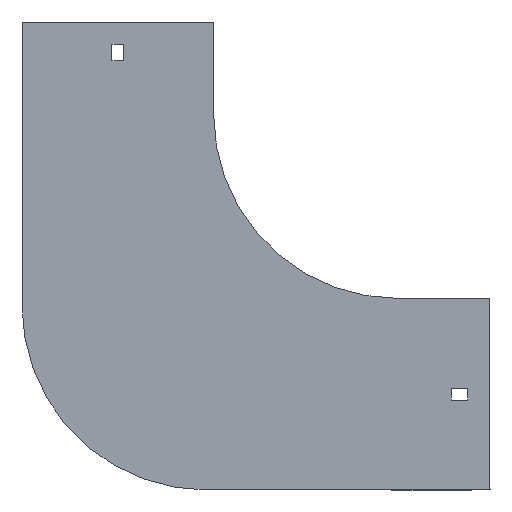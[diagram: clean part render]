
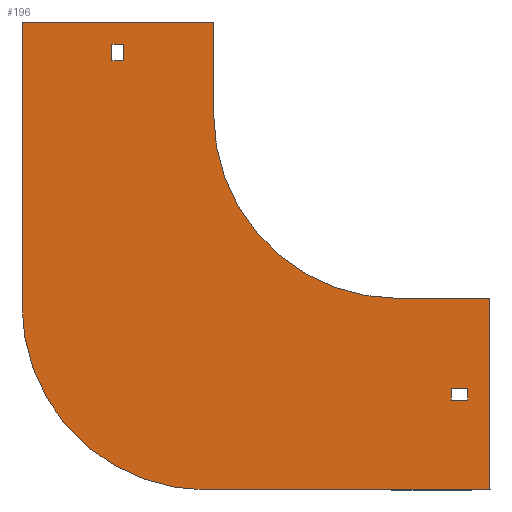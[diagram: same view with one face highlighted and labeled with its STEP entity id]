
A CAD part, front view. The second image highlights one B-rep face of the part: STEP entity #196.
In plain terms, the highlighted planar face has unit normal (0, -1, 0).
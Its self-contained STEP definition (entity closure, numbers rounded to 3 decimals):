
#17 = DIRECTION ( 'NONE',  ( -1., 0., 0. ) ) ;
#27 = CARTESIAN_POINT ( 'NONE',  ( -204., 0., 50. ) ) ;
#28 = VECTOR ( 'NONE', #128, 1000. ) ;
#38 = EDGE_CURVE ( 'NONE', #80, #260, #315, .T. ) ;
#49 = LINE ( 'NONE', #1218, #28 ) ;
#60 = VERTEX_POINT ( 'NONE', #751 ) ;
#68 = LINE ( 'NONE', #1111, #226 ) ;
#76 = DIRECTION ( 'NONE',  ( 0., 1., 0. ) ) ;
#80 = VERTEX_POINT ( 'NONE', #1188 ) ;
#84 = ORIENTED_EDGE ( 'NONE', *, *, #655, .F. ) ;
#90 = ORIENTED_EDGE ( 'NONE', *, *, #920, .F. ) ;
#107 = ORIENTED_EDGE ( 'NONE', *, *, #777, .F. ) ;
#111 = DIRECTION ( 'NONE',  ( 0., -1., 0. ) ) ;
#125 = CARTESIAN_POINT ( 'NONE',  ( 0., 0., 0. ) ) ;
#128 = DIRECTION ( 'NONE',  ( 1., 0., 0. ) ) ;
#130 = ORIENTED_EDGE ( 'NONE', *, *, #394, .F. ) ;
#135 = ORIENTED_EDGE ( 'NONE', *, *, #857, .F. ) ;
#138 = DIRECTION ( 'NONE',  ( 0., 0., -1. ) ) ;
#149 = VERTEX_POINT ( 'NONE', #27 ) ;
#161 = CARTESIAN_POINT ( 'NONE',  ( 29., 0., -148.75 ) ) ;
#182 = CARTESIAN_POINT ( 'NONE',  ( 29., 0., -155.25 ) ) ;
#196 = ADVANCED_FACE ( 'NONE', ( #983, #1081, #747 ), #1095, .T. ) ;
#202 = EDGE_CURVE ( 'NONE', #1025, #340, #455, .T. ) ;
#209 = DIRECTION ( 'NONE',  ( 0., 0., -1. ) ) ;
#210 = EDGE_LOOP ( 'NONE', ( #135, #84, #90, #1149, #1108, #361, #107, #339 ) ) ;
#217 = LINE ( 'NONE', #327, #1350 ) ;
#224 = DIRECTION ( 'NONE',  ( 0., 0., 1. ) ) ;
#225 = VECTOR ( 'NONE', #17, 1000. ) ;
#226 = VECTOR ( 'NONE', #934, 1000. ) ;
#235 = LINE ( 'NONE', #852, #225 ) ;
#237 = ORIENTED_EDGE ( 'NONE', *, *, #38, .T. ) ;
#246 = CARTESIAN_POINT ( 'NONE',  ( -155.25, 0., 29. ) ) ;
#260 = VERTEX_POINT ( 'NONE', #676 ) ;
#282 = ORIENTED_EDGE ( 'NONE', *, *, #704, .F. ) ;
#286 = VERTEX_POINT ( 'NONE', #669 ) ;
#291 = CARTESIAN_POINT ( 'NONE',  ( -104., 0., -104. ) ) ;
#297 = ORIENTED_EDGE ( 'NONE', *, *, #758, .F. ) ;
#315 = LINE ( 'NONE', #1164, #807 ) ;
#318 = CARTESIAN_POINT ( 'NONE',  ( -100., 0., 50. ) ) ;
#327 = CARTESIAN_POINT ( 'NONE',  ( 38., 0., -155.25 ) ) ;
#339 = ORIENTED_EDGE ( 'NONE', *, *, #202, .F. ) ;
#340 = VERTEX_POINT ( 'NONE', #1162 ) ;
#342 = EDGE_CURVE ( 'NONE', #1204, #60, #401, .T. ) ;
#357 = DIRECTION ( 'NONE',  ( 0., 0., -1. ) ) ;
#361 = ORIENTED_EDGE ( 'NONE', *, *, #342, .F. ) ;
#368 = CARTESIAN_POINT ( 'NONE',  ( -204., 0., -104. ) ) ;
#374 = CARTESIAN_POINT ( 'NONE',  ( 38., 0., -148.75 ) ) ;
#381 = CARTESIAN_POINT ( 'NONE',  ( 29., 0., -155.25 ) ) ;
#383 = LINE ( 'NONE', #161, #1226 ) ;
#390 = VERTEX_POINT ( 'NONE', #1256 ) ;
#394 = EDGE_CURVE ( 'NONE', #1131, #936, #1143, .T. ) ;
#401 = LINE ( 'NONE', #1039, #1073 ) ;
#430 = CIRCLE ( 'NONE', #814, 100. ) ;
#434 = CARTESIAN_POINT ( 'NONE',  ( 38., 0., -155.25 ) ) ;
#455 = LINE ( 'NONE', #1303, #580 ) ;
#463 = CIRCLE ( 'NONE', #644, 100. ) ;
#471 = VECTOR ( 'NONE', #671, 1000. ) ;
#505 = CARTESIAN_POINT ( 'NONE',  ( -155.25, 0., 38. ) ) ;
#507 = CARTESIAN_POINT ( 'NONE',  ( -155.25, 0., 38. ) ) ;
#512 = DIRECTION ( 'NONE',  ( 1., 0., 0. ) ) ;
#554 = DIRECTION ( 'NONE',  ( 0., 0., -1. ) ) ;
#580 = VECTOR ( 'NONE', #554, 1000. ) ;
#587 = VERTEX_POINT ( 'NONE', #604 ) ;
#604 = CARTESIAN_POINT ( 'NONE',  ( -155.25, 0., 29. ) ) ;
#617 = DIRECTION ( 'NONE',  ( 1., 0., 0. ) ) ;
#641 = EDGE_CURVE ( 'NONE', #1146, #80, #1215, .T. ) ;
#644 = AXIS2_PLACEMENT_3D ( 'NONE', #802, #904, #138 ) ;
#646 = CARTESIAN_POINT ( 'NONE',  ( -204., 0., -104. ) ) ;
#655 = EDGE_CURVE ( 'NONE', #951, #149, #696, .T. ) ;
#669 = CARTESIAN_POINT ( 'NONE',  ( 29., 0., -148.75 ) ) ;
#671 = DIRECTION ( 'NONE',  ( 0., 0., 1. ) ) ;
#676 = CARTESIAN_POINT ( 'NONE',  ( -148.75, 0., 29. ) ) ;
#696 = LINE ( 'NONE', #368, #1019 ) ;
#704 = EDGE_CURVE ( 'NONE', #936, #1141, #217, .T. ) ;
#722 = VERTEX_POINT ( 'NONE', #972 ) ;
#747 = FACE_BOUND ( 'NONE', #1007, .T. ) ;
#748 = CARTESIAN_POINT ( 'NONE',  ( 29., 0., -155.25 ) ) ;
#751 = CARTESIAN_POINT ( 'NONE',  ( 50., 0., -100. ) ) ;
#754 = DIRECTION ( 'NONE',  ( 0., 0., -1. ) ) ;
#758 = EDGE_CURVE ( 'NONE', #1141, #286, #383, .T. ) ;
#773 = CARTESIAN_POINT ( 'NONE',  ( 50., 0., -100. ) ) ;
#777 = EDGE_CURVE ( 'NONE', #340, #1204, #463, .T. ) ;
#784 = DIRECTION ( 'NONE',  ( 0., 0., -1. ) ) ;
#802 = CARTESIAN_POINT ( 'NONE',  ( 0., 0., 0. ) ) ;
#807 = VECTOR ( 'NONE', #209, 1000. ) ;
#814 = AXIS2_PLACEMENT_3D ( 'NONE', #291, #76, #1174 ) ;
#836 = VECTOR ( 'NONE', #932, 1000. ) ;
#844 = EDGE_CURVE ( 'NONE', #60, #722, #1012, .T. ) ;
#852 = CARTESIAN_POINT ( 'NONE',  ( 50., 0., -204. ) ) ;
#857 = EDGE_CURVE ( 'NONE', #149, #1025, #49, .T. ) ;
#904 = DIRECTION ( 'NONE',  ( 0., -1., 0. ) ) ;
#906 = VECTOR ( 'NONE', #617, 1000. ) ;
#920 = EDGE_CURVE ( 'NONE', #390, #951, #430, .T. ) ;
#932 = DIRECTION ( 'NONE',  ( 1., 0., 0. ) ) ;
#934 = DIRECTION ( 'NONE',  ( -1., 0., 0. ) ) ;
#936 = VERTEX_POINT ( 'NONE', #434 ) ;
#951 = VERTEX_POINT ( 'NONE', #646 ) ;
#972 = CARTESIAN_POINT ( 'NONE',  ( 50., 0., -204. ) ) ;
#983 = FACE_BOUND ( 'NONE', #1003, .T. ) ;
#995 = LINE ( 'NONE', #246, #471 ) ;
#1003 = EDGE_LOOP ( 'NONE', ( #1106, #1237, #237, #1066 ) ) ;
#1007 = EDGE_LOOP ( 'NONE', ( #282, #130, #1116, #297 ) ) ;
#1012 = LINE ( 'NONE', #773, #1167 ) ;
#1019 = VECTOR ( 'NONE', #1367, 1000. ) ;
#1025 = VERTEX_POINT ( 'NONE', #318 ) ;
#1027 = LINE ( 'NONE', #381, #1405 ) ;
#1039 = CARTESIAN_POINT ( 'NONE',  ( 0., 0., -100. ) ) ;
#1066 = ORIENTED_EDGE ( 'NONE', *, *, #1152, .T. ) ;
#1072 = AXIS2_PLACEMENT_3D ( 'NONE', #125, #111, #754 ) ;
#1073 = VECTOR ( 'NONE', #512, 1000. ) ;
#1081 = FACE_OUTER_BOUND ( 'NONE', #210, .T. ) ;
#1095 = PLANE ( 'NONE',  #1072 ) ;
#1100 = DIRECTION ( 'NONE',  ( -1., 0., 0. ) ) ;
#1106 = ORIENTED_EDGE ( 'NONE', *, *, #1122, .T. ) ;
#1108 = ORIENTED_EDGE ( 'NONE', *, *, #844, .F. ) ;
#1111 = CARTESIAN_POINT ( 'NONE',  ( -155.25, 0., 29. ) ) ;
#1116 = ORIENTED_EDGE ( 'NONE', *, *, #1399, .F. ) ;
#1122 = EDGE_CURVE ( 'NONE', #587, #1146, #995, .T. ) ;
#1131 = VERTEX_POINT ( 'NONE', #748 ) ;
#1141 = VERTEX_POINT ( 'NONE', #374 ) ;
#1143 = LINE ( 'NONE', #182, #906 ) ;
#1146 = VERTEX_POINT ( 'NONE', #507 ) ;
#1149 = ORIENTED_EDGE ( 'NONE', *, *, #1298, .F. ) ;
#1152 = EDGE_CURVE ( 'NONE', #260, #587, #68, .T. ) ;
#1162 = CARTESIAN_POINT ( 'NONE',  ( -100., 0., 0. ) ) ;
#1164 = CARTESIAN_POINT ( 'NONE',  ( -148.75, 0., 29. ) ) ;
#1165 = CARTESIAN_POINT ( 'NONE',  ( 0., 0., -100. ) ) ;
#1167 = VECTOR ( 'NONE', #784, 1000. ) ;
#1174 = DIRECTION ( 'NONE',  ( 0., 0., 1. ) ) ;
#1188 = CARTESIAN_POINT ( 'NONE',  ( -148.75, 0., 38. ) ) ;
#1204 = VERTEX_POINT ( 'NONE', #1165 ) ;
#1215 = LINE ( 'NONE', #505, #836 ) ;
#1218 = CARTESIAN_POINT ( 'NONE',  ( -204., 0., 50. ) ) ;
#1226 = VECTOR ( 'NONE', #1100, 1000. ) ;
#1237 = ORIENTED_EDGE ( 'NONE', *, *, #641, .T. ) ;
#1256 = CARTESIAN_POINT ( 'NONE',  ( -104., 0., -204. ) ) ;
#1298 = EDGE_CURVE ( 'NONE', #722, #390, #235, .T. ) ;
#1303 = CARTESIAN_POINT ( 'NONE',  ( -100., 0., 50. ) ) ;
#1350 = VECTOR ( 'NONE', #224, 1000. ) ;
#1367 = DIRECTION ( 'NONE',  ( 0., 0., 1. ) ) ;
#1399 = EDGE_CURVE ( 'NONE', #286, #1131, #1027, .T. ) ;
#1405 = VECTOR ( 'NONE', #357, 1000. ) ;
